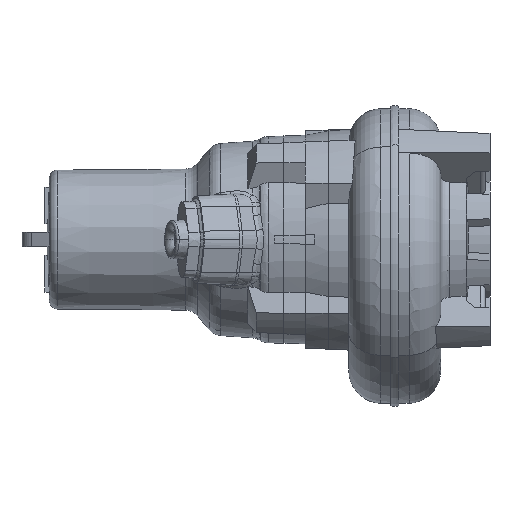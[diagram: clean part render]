
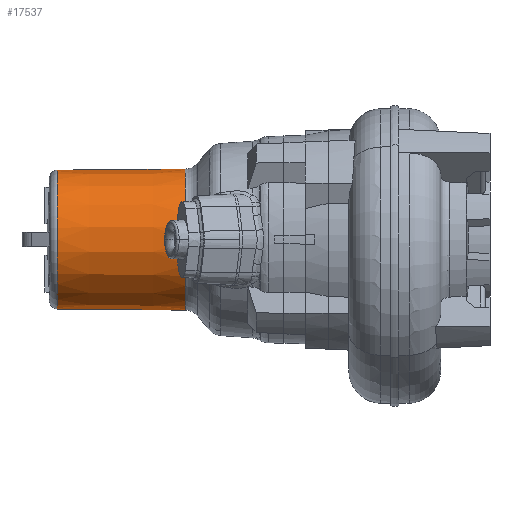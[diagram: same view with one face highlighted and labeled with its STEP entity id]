
A CAD part, left-side view. The second image highlights one B-rep face of the part: STEP entity #17537.
In plain terms, the highlighted conical face has half-angle 0.494 degrees and reference radius 84.5 mm.
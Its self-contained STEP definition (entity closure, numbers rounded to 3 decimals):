
#601 = ORIENTED_EDGE ( 'NONE', *, *, #11661, .T. ) ;
#657 = CARTESIAN_POINT ( 'NONE',  ( 0., 278.764, 0. ) ) ;
#1079 = VERTEX_POINT ( 'NONE', #19148 ) ;
#2370 = AXIS2_PLACEMENT_3D ( 'NONE', #23983, #4163, #4024 ) ;
#3281 = CARTESIAN_POINT ( 'NONE',  ( -85.901, 123.517, -1.97 ) ) ;
#4024 = DIRECTION ( 'NONE',  ( 0., 0., -1. ) ) ;
#4038 = CIRCLE ( 'NONE', #14283, 85.921 ) ;
#4163 = DIRECTION ( 'NONE',  ( 0., 1., 0. ) ) ;
#4321 = EDGE_LOOP ( 'NONE', ( #28697, #8011, #601, #26247, #5194, #28767 ) ) ;
#5194 = ORIENTED_EDGE ( 'NONE', *, *, #9346, .T. ) ;
#5319 = VECTOR ( 'NONE', #26028, 1000. ) ;
#5465 = CARTESIAN_POINT ( 'NONE',  ( -85.871, 123.221, -2.923 ) ) ;
#5733 = CARTESIAN_POINT ( 'NONE',  ( -85.913, 123.636, 0.983 ) ) ;
#5977 = CARTESIAN_POINT ( 'NONE',  ( 0., 278.764, 84.58 ) ) ;
#6070 = FACE_OUTER_BOUND ( 'NONE', #4321, .T. ) ;
#8011 = ORIENTED_EDGE ( 'NONE', *, *, #16491, .T. ) ;
#8022 = DIRECTION ( 'NONE',  ( 0., -1., 0.009 ) ) ;
#8161 = CARTESIAN_POINT ( 'NONE',  ( -85.871, 123.221, -2.923 ) ) ;
#8588 = CARTESIAN_POINT ( 'NONE',  ( -85.871, 123.221, 2.923 ) ) ;
#9031 = EDGE_CURVE ( 'NONE', #1079, #22175, #26087, .T. ) ;
#9346 = EDGE_CURVE ( 'NONE', #22175, #9736, #18899, .T. ) ;
#9481 = DIRECTION ( 'NONE',  ( 0., 0., -1. ) ) ;
#9598 = CONICAL_SURFACE ( 'NONE', #18925, 84.5, 0.009 ) ;
#9736 = VERTEX_POINT ( 'NONE', #8588 ) ;
#9833 = VERTEX_POINT ( 'NONE', #21271 ) ;
#10124 = CARTESIAN_POINT ( 'NONE',  ( -85.916, 123.673, -1.001 ) ) ;
#11661 = EDGE_CURVE ( 'NONE', #14085, #1079, #15115, .T. ) ;
#11979 = DIRECTION ( 'NONE',  ( 0., 1., 0. ) ) ;
#12385 = CARTESIAN_POINT ( 'NONE',  ( 0., 288., 0. ) ) ;
#12404 = EDGE_CURVE ( 'NONE', #23045, #9833, #18982, .T. ) ;
#14024 = CARTESIAN_POINT ( 'NONE',  ( 0., 123.221, 0. ) ) ;
#14085 = VERTEX_POINT ( 'NONE', #28057 ) ;
#14283 = AXIS2_PLACEMENT_3D ( 'NONE', #14024, #11979, #9481 ) ;
#15115 = LINE ( 'NONE', #23995, #5319 ) ;
#16491 = EDGE_CURVE ( 'NONE', #23045, #14085, #20581, .T. ) ;
#17537 = ADVANCED_FACE ( 'NONE', ( #6070 ), #9598, .T. ) ;
#18008 = DIRECTION ( 'NONE',  ( 0., -1., 0. ) ) ;
#18436 = DIRECTION ( 'NONE',  ( 0., 0., 1. ) ) ;
#18899 = B_SPLINE_CURVE_WITH_KNOTS ( 'NONE', 3,
 ( #5465, #3281, #10124, #21044, #5733, #23374, #19160, #27912 ),
 .UNSPECIFIED., .F., .F.,
 ( 4, 2, 2, 4 ),
 ( 0., 0.003, 0.004, 0.006 ),
 .UNSPECIFIED. ) ;
#18925 = AXIS2_PLACEMENT_3D ( 'NONE', #12385, #27969, #27678 ) ;
#18982 = LINE ( 'NONE', #25809, #21168 ) ;
#19148 = CARTESIAN_POINT ( 'NONE',  ( 0., 123.221, -85.921 ) ) ;
#19160 = CARTESIAN_POINT ( 'NONE',  ( -85.886, 123.369, 2.446 ) ) ;
#20581 = CIRCLE ( 'NONE', #21060, 84.58 ) ;
#21044 = CARTESIAN_POINT ( 'NONE',  ( -85.917, 123.675, 0.482 ) ) ;
#21060 = AXIS2_PLACEMENT_3D ( 'NONE', #657, #18008, #18436 ) ;
#21168 = VECTOR ( 'NONE', #8022, 1000. ) ;
#21271 = CARTESIAN_POINT ( 'NONE',  ( 0., 123.221, 85.921 ) ) ;
#22175 = VERTEX_POINT ( 'NONE', #8161 ) ;
#23045 = VERTEX_POINT ( 'NONE', #5977 ) ;
#23374 = CARTESIAN_POINT ( 'NONE',  ( -85.897, 123.483, 1.963 ) ) ;
#23983 = CARTESIAN_POINT ( 'NONE',  ( 0., 123.221, 0. ) ) ;
#23995 = CARTESIAN_POINT ( 'NONE',  ( 0., 288., -84.5 ) ) ;
#25809 = CARTESIAN_POINT ( 'NONE',  ( 0., 288., 84.5 ) ) ;
#26028 = DIRECTION ( 'NONE',  ( 0., -1., -0.009 ) ) ;
#26087 = CIRCLE ( 'NONE', #2370, 85.921 ) ;
#26247 = ORIENTED_EDGE ( 'NONE', *, *, #9031, .T. ) ;
#26513 = EDGE_CURVE ( 'NONE', #9736, #9833, #4038, .T. ) ;
#27678 = DIRECTION ( 'NONE',  ( 0., 0., -1. ) ) ;
#27912 = CARTESIAN_POINT ( 'NONE',  ( -85.871, 123.221, 2.923 ) ) ;
#27969 = DIRECTION ( 'NONE',  ( 0., -1., 0. ) ) ;
#28057 = CARTESIAN_POINT ( 'NONE',  ( 0., 278.764, -84.58 ) ) ;
#28697 = ORIENTED_EDGE ( 'NONE', *, *, #12404, .F. ) ;
#28767 = ORIENTED_EDGE ( 'NONE', *, *, #26513, .T. ) ;
